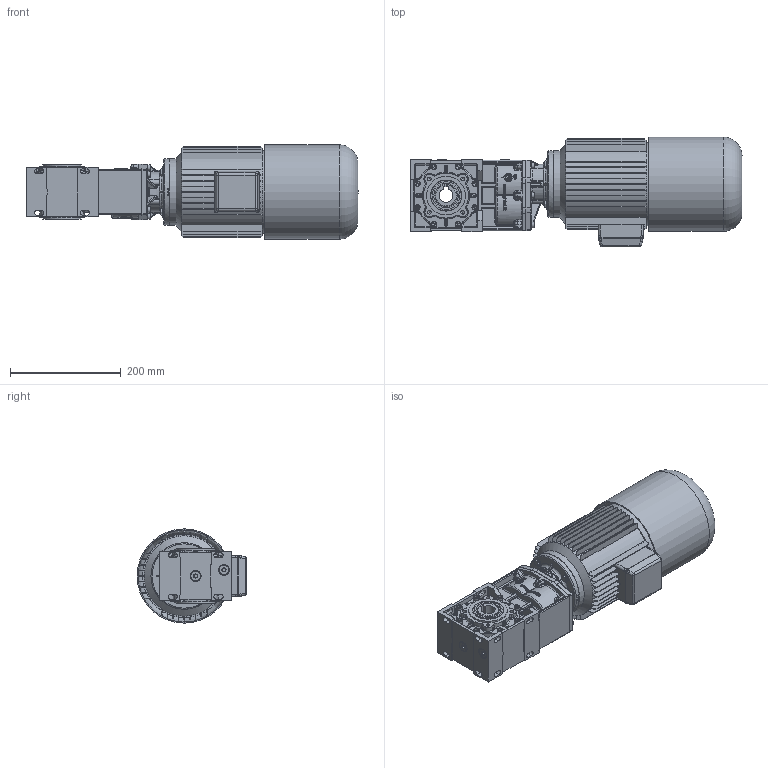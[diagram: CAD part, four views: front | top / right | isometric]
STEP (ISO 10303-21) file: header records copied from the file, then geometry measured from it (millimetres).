
FILE_DESCRIPTION((''),'2;1');
FILE_NAME('S:\Ghirri\3D\MO_RO10\Assiemi\MO10_2s-B14_80brake.stp','2006-02-01T15:03:22',('Stefano'),(''),'Autodesk Inventor 10','Autodesk Inventor 10','');
FILE_SCHEMA(('AUTOMOTIVE_DESIGN { 1 0 10303 214 1 1 1 1 }'));
Length unit declared in the file: millimetre
Products named in the file (16): MO10_2s-B14_80brake; Primario_MO10_2S; 3901001-A0; 3901002-A0; 3901003-A0; 3901009-A0; Paraolio-40-56-7; Guarnizione 1_4 GAS; Tappo 1_4 GAS; UNI 5931  M 6 x  20; UNI 8839 A 6; motori B14 brake 80; FM-40-50-D=120; UNI 6593 6.6 x 12; UNI 5739  M6 x 20
Assembly tree (48 placements, depth 3):
  MO10_2s-B14_80brake
    Primario_MO10_2S
      3901001-A0
      3901002-A0
      3901003-A0
      3901009-A0
      Paraolio-40-56-7  x2
      Guarnizione 1_4 GAS  x5
      Tappo 1_4 GAS  x5
      UNI 5931  M 6 x  20  x14
      UNI 8839 A 6  x6
    motori B14 brake 80
    FM-40-50-D=120
      FM-40-50-D=120
      UNI 6593 6.6 x 12  x4
      UNI 5739  M6 x 20  x4
Bounding box: 598.5 x 198 x 170 mm (x, y, z)
Volume: 5701315.3 mm3; surface area: 775531.3 mm2
Topology: 47 solids, 48 shells, 3382 faces, 8499 edges, 5242 vertices
Faces by surface type: plane 1334, cylinder 996, bspline 917, cone 97, torus 34, sphere 4
Full cylindrical faces by diameter (mm): 5 x3, 6 x18, 6.5 x14, 6.6 x4, 8.88 x4, 10 x14, 11.445 x1, 12.5 x4, 13 x10, 18 x5, 19 x6, 20 x1, 40 x4, 44 x2, 46 x2, 48 x1, 50 x2, 52 x2, 55 x2, 56 x4, 70 x2, 78 x1, 80 x2, 96.4 x1, 102 x3, 120 x2, 149.6 x1, 166 x1, 170 x1
Entity records: 140944 total; most frequent: CARTESIAN_POINT 72637, ORIENTED_EDGE 14658, DIRECTION 13440, EDGE_CURVE 7329, AXIS2_PLACEMENT_3D 5143, VERTEX_POINT 4630, EDGE_LOOP 3327, VECTOR 3154
